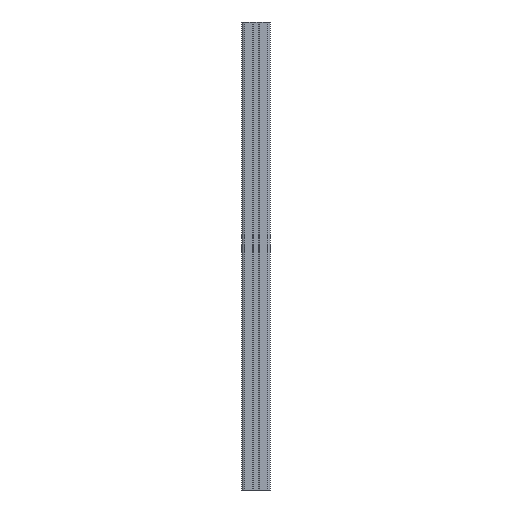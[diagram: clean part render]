
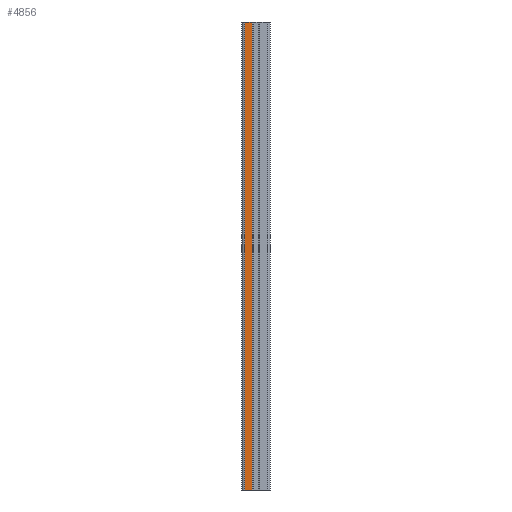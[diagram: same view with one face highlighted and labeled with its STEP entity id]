
A CAD part, front view. The second image highlights one B-rep face of the part: STEP entity #4856.
In plain terms, the highlighted planar face has unit normal (0, -1, 0).
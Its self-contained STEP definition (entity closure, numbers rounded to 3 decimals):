
#32 = DIRECTION ( 'NONE',  ( 0., 0., 1. ) ) ;
#57 = CARTESIAN_POINT ( 'NONE',  ( -15., -15., -292.426 ) ) ;
#491 = PLANE ( 'NONE',  #2036 ) ;
#509 = CARTESIAN_POINT ( 'NONE',  ( -4.1, -15., -250. ) ) ;
#668 = LINE ( 'NONE', #4369, #4916 ) ;
#714 = LINE ( 'NONE', #2856, #1542 ) ;
#754 = ORIENTED_EDGE ( 'NONE', *, *, #2764, .F. ) ;
#770 = CARTESIAN_POINT ( 'NONE',  ( -4.1, -15., 250. ) ) ;
#1006 = EDGE_CURVE ( 'NONE', #3161, #2924, #714, .T. ) ;
#1260 = ORIENTED_EDGE ( 'NONE', *, *, #1367, .F. ) ;
#1282 = FACE_OUTER_BOUND ( 'NONE', #4906, .T. ) ;
#1367 = EDGE_CURVE ( 'NONE', #5098, #2885, #1599, .T. ) ;
#1527 = ORIENTED_EDGE ( 'NONE', *, *, #1006, .T. ) ;
#1542 = VECTOR ( 'NONE', #32, 1000. ) ;
#1599 = LINE ( 'NONE', #2183, #2921 ) ;
#1861 = DIRECTION ( 'NONE',  ( -1., 0., 0. ) ) ;
#2036 = AXIS2_PLACEMENT_3D ( 'NONE', #57, #4216, #4149 ) ;
#2044 = EDGE_CURVE ( 'NONE', #2885, #2924, #3870, .T. ) ;
#2183 = CARTESIAN_POINT ( 'NONE',  ( -12., -15., -250. ) ) ;
#2764 = EDGE_CURVE ( 'NONE', #3161, #5098, #668, .T. ) ;
#2849 = DIRECTION ( 'NONE',  ( 1., 0., 0. ) ) ;
#2856 = CARTESIAN_POINT ( 'NONE',  ( -4.1, -15., -250. ) ) ;
#2885 = VERTEX_POINT ( 'NONE', #3151 ) ;
#2921 = VECTOR ( 'NONE', #2985, 1000. ) ;
#2924 = VERTEX_POINT ( 'NONE', #770 ) ;
#2985 = DIRECTION ( 'NONE',  ( 0., 0., 1. ) ) ;
#3151 = CARTESIAN_POINT ( 'NONE',  ( -12., -15., 250. ) ) ;
#3161 = VERTEX_POINT ( 'NONE', #509 ) ;
#3292 = VECTOR ( 'NONE', #2849, 1000. ) ;
#3870 = LINE ( 'NONE', #5329, #3292 ) ;
#3971 = CARTESIAN_POINT ( 'NONE',  ( -12., -15., -250. ) ) ;
#4149 = DIRECTION ( 'NONE',  ( 1., 0., 0. ) ) ;
#4216 = DIRECTION ( 'NONE',  ( 0., -1., 0. ) ) ;
#4369 = CARTESIAN_POINT ( 'NONE',  ( -15., -15., -250. ) ) ;
#4856 = ADVANCED_FACE ( 'NONE', ( #1282 ), #491, .T. ) ;
#4906 = EDGE_LOOP ( 'NONE', ( #754, #1527, #5353, #1260 ) ) ;
#4916 = VECTOR ( 'NONE', #1861, 1000. ) ;
#5098 = VERTEX_POINT ( 'NONE', #3971 ) ;
#5329 = CARTESIAN_POINT ( 'NONE',  ( -15., -15., 250. ) ) ;
#5353 = ORIENTED_EDGE ( 'NONE', *, *, #2044, .F. ) ;
